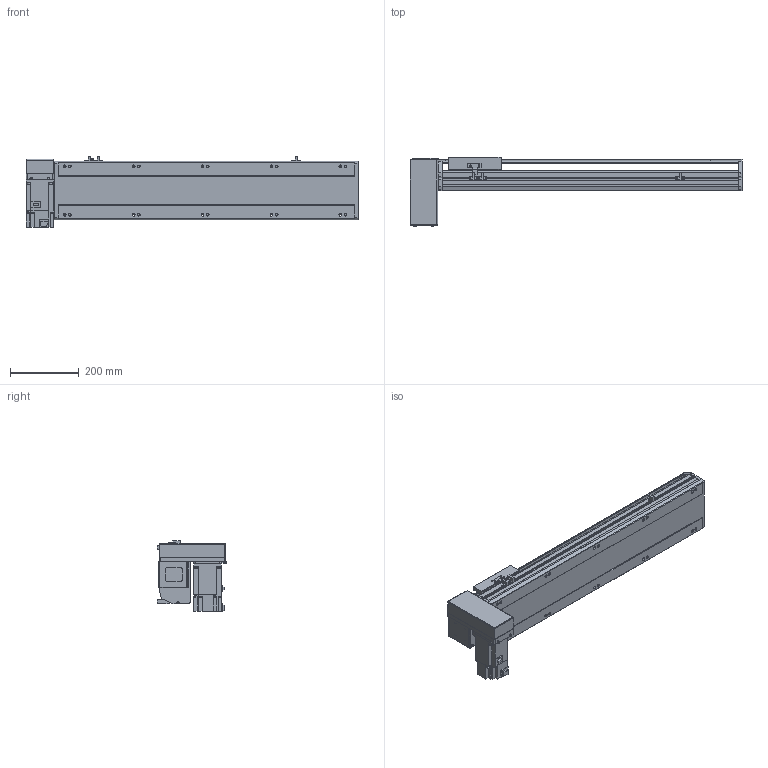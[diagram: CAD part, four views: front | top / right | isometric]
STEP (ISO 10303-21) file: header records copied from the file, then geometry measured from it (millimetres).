
FILE_DESCRIPTION(/* description */ ('STEP AP214'),/* implementation_level */ '2;1');
FILE_NAME(/* name */ 'PBS170-P40-S600-RD-T75-C1-N(0)',/* time_stamp */ '2022-06-08T07:34:34+02:00',/* author */ ('License CC BY-ND 4.0'),/* organization */ ('CADENAS'),/* preprocessor_version */ 'ST-DEVELOPER v18.102',/* originating_system */ 'PARTsolutions',/* authorisation */ ' ');
FILE_SCHEMA (('AUTOMOTIVE_DESIGN {1 0 10303 214 3 1 1}'));
Length unit declared in the file: millimetre
Products named in the file (7): PBS170-P40-S600-RD-T75-C1-N(0); PBS170_sensor; PBS170_plant; PBS170_sliser; T75-p1; PBS170T-RD_motors; PBS170-S600()_body
Assembly tree (8 placements, depth 2):
  PBS170-P40-S600-RD-T75-C1-N(0)
    PBS170_sensor  x3
    PBS170_plant
    PBS170_sliser
    T75-p1
    PBS170T-RD_motors
    PBS170-S600()_body
Bounding box: 963 x 201 x 205.3 mm (x, y, z)
Volume: 8142545.4 mm3; surface area: 1095428.3 mm2
Topology: 8 solids, 8 shells, 1034 faces, 2755 edges, 1796 vertices
Faces by surface type: plane 669, cylinder 315, cone 40, sphere 8, torus 2
Full cylindrical faces by diameter (mm): 3.242 x4, 4 x2, 4.4 x4, 4.5 x6, 4.917 x4, 6 x9, 6.647 x18, 7 x2, 7.5 x4, 8 x8, 8.5 x10, 10 x4, 10.5 x10, 11 x2, 30 x2, 40 x1, 70 x1
Entity records: 29744 total; most frequent: CARTESIAN_POINT 5377, DIRECTION 5090, ORIENTED_EDGE 4848, EDGE_CURVE 2424, AXIS2_PLACEMENT_3D 1747, VERTEX_POINT 1658, LINE 1596, VECTOR 1596
